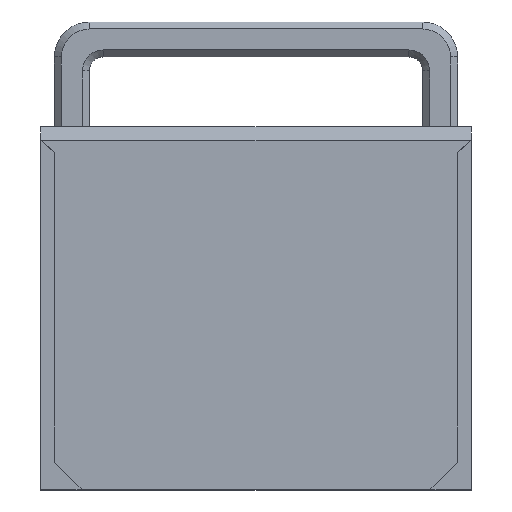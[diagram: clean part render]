
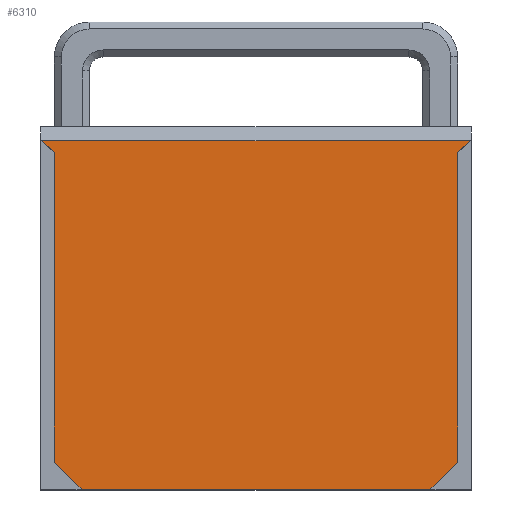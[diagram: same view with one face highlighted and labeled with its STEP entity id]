
A CAD part, top view. The second image highlights one B-rep face of the part: STEP entity #6310.
In plain terms, the highlighted planar face has unit normal (0, 0, 1).
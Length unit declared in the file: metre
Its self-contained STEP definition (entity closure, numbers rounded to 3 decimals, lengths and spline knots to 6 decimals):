
#964=ORIENTED_EDGE('',*,*,#2857,.T.);
#965=ORIENTED_EDGE('',*,*,#2866,.T.);
#966=ORIENTED_EDGE('',*,*,#2867,.T.);
#967=ORIENTED_EDGE('',*,*,#2868,.T.);
#968=ORIENTED_EDGE('',*,*,#2552,.T.);
#969=ORIENTED_EDGE('',*,*,#2791,.T.);
#970=ORIENTED_EDGE('',*,*,#2786,.F.);
#971=ORIENTED_EDGE('',*,*,#2801,.T.);
#2552=EDGE_CURVE('',#3534,#3533,#4183,.T.);
#2786=EDGE_CURVE('',#3766,#3767,#4277,.T.);
#2791=EDGE_CURVE('',#3533,#3767,#4282,.T.);
#2801=EDGE_CURVE('',#3766,#3778,#4292,.T.);
#2857=EDGE_CURVE('',#3778,#3811,#4336,.T.);
#2866=EDGE_CURVE('',#3811,#3816,#4345,.F.);
#2867=EDGE_CURVE('',#3816,#3817,#4346,.T.);
#2868=EDGE_CURVE('',#3817,#3534,#4347,.F.);
#3533=VERTEX_POINT('',#9107);
#3534=VERTEX_POINT('',#9109);
#3766=VERTEX_POINT('',#9644);
#3767=VERTEX_POINT('',#9645);
#3778=VERTEX_POINT('',#9674);
#3811=VERTEX_POINT('',#9782);
#3816=VERTEX_POINT('',#9800);
#3817=VERTEX_POINT('',#9802);
#4183=LINE('',#9108,#4790);
#4277=LINE('',#9643,#4884);
#4282=LINE('',#9653,#4889);
#4292=LINE('',#9675,#4899);
#4336=LINE('',#9783,#4943);
#4345=LINE('',#9799,#4952);
#4346=LINE('',#9801,#4953);
#4347=LINE('',#9803,#4954);
#4790=VECTOR('',#7270,1.);
#4884=VECTOR('',#7584,1.);
#4889=VECTOR('',#7591,1.);
#4899=VECTOR('',#7607,1.);
#4943=VECTOR('',#7713,1.);
#4952=VECTOR('',#7728,1.);
#4953=VECTOR('',#7729,1.);
#4954=VECTOR('',#7730,1.);
#5431=EDGE_LOOP('',(#964,#965,#966,#967,#968,#969,#970,#971));
#5798=FACE_BOUND('',#5431,.T.);
#6145=PLANE('',#6792);
#6310=ADVANCED_FACE('',(#5798),#6145,.F.);
#6792=AXIS2_PLACEMENT_3D('',#9798,#7726,#7727);
#7270=DIRECTION('',(1.,0.,0.));
#7584=DIRECTION('',(0.,-1.,0.));
#7591=DIRECTION('',(0.707,0.707,0.));
#7607=DIRECTION('',(0.707,0.707,0.));
#7713=DIRECTION('',(-1.,0.,0.));
#7726=DIRECTION('',(0.,0.,-1.));
#7727=DIRECTION('',(-1.,0.,0.));
#7728=DIRECTION('',(-0.707,0.707,0.));
#7729=DIRECTION('',(0.,-1.,0.));
#7730=DIRECTION('',(-0.707,0.707,0.));
#9107=CARTESIAN_POINT('',(-0.1646,0.01415,0.00825));
#9108=CARTESIAN_POINT('',(0.003,0.01415,0.00825));
#9109=CARTESIAN_POINT('',(-0.2144,0.01415,0.00825));
#9643=CARTESIAN_POINT('',(-0.1606,0.712841,0.00825));
#9644=CARTESIAN_POINT('',(-0.1606,0.0624,0.00825));
#9645=CARTESIAN_POINT('',(-0.1606,0.01815,0.00825));
#9653=CARTESIAN_POINT('',(-0.1646,0.01415,0.00825));
#9674=CARTESIAN_POINT('',(-0.15885,0.06415,0.00825));
#9675=CARTESIAN_POINT('',(-0.15865,0.06435,0.00825));
#9782=CARTESIAN_POINT('',(-0.22015,0.06415,0.00825));
#9783=CARTESIAN_POINT('',(-0.20835,0.06415,0.00825));
#9798=CARTESIAN_POINT('',(0.003,0.712841,0.00825));
#9799=CARTESIAN_POINT('',(-0.21835,0.06235,0.00825));
#9800=CARTESIAN_POINT('',(-0.2184,0.0624,0.00825));
#9801=CARTESIAN_POINT('',(-0.2184,0.712841,0.00825));
#9802=CARTESIAN_POINT('',(-0.2184,0.01815,0.00825));
#9803=CARTESIAN_POINT('',(-0.2184,0.01815,0.00825));
